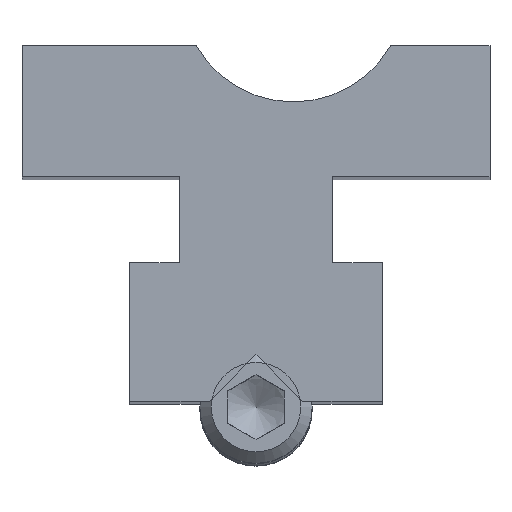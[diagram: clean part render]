
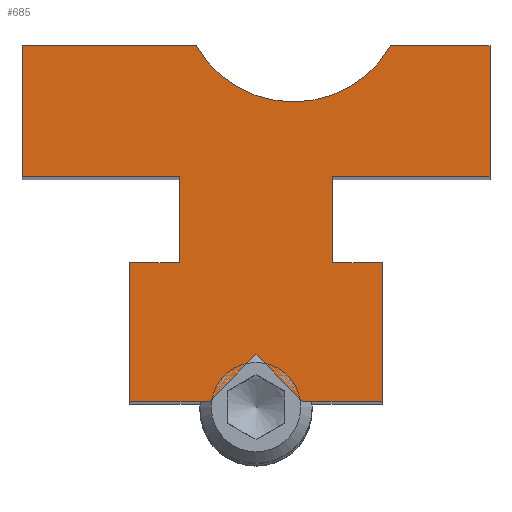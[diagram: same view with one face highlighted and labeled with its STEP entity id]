
A CAD part, top view. The second image highlights one B-rep face of the part: STEP entity #685.
In plain terms, the highlighted planar face has unit normal (0, 0, 1).
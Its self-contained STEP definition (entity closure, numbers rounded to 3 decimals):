
#257=CARTESIAN_POINT('',(4.1,-4.6,45.0));
#258=VERTEX_POINT('',#257);
#259=CARTESIAN_POINT('',(6.75,-4.6,45.0));
#260=VERTEX_POINT('',#259);
#261=CARTESIAN_POINT('',(4.1,-4.6,45.0));
#262=DIRECTION('',(1.0,0.0,0.0));
#263=VECTOR('',#262,2.65);
#264=LINE('',#261,#263);
#265=EDGE_CURVE('',#258,#260,#264,.T.);
#288=CARTESIAN_POINT('',(6.75,-12.0,45.0));
#289=VERTEX_POINT('',#288);
#290=CARTESIAN_POINT('',(6.75,-4.6,45.0));
#291=DIRECTION('',(0.0,-1.0,0.0));
#292=VECTOR('',#291,7.4);
#293=LINE('',#290,#292);
#294=EDGE_CURVE('',#260,#289,#293,.T.);
#312=CARTESIAN_POINT('',(2.5,-12.0,45.0));
#313=VERTEX_POINT('',#312);
#314=CARTESIAN_POINT('',(6.75,-12.0,45.0));
#315=DIRECTION('',(-1.0,0.0,0.0));
#316=VECTOR('',#315,4.25);
#317=LINE('',#314,#316);
#318=EDGE_CURVE('',#289,#313,#317,.T.);
#336=CARTESIAN_POINT('',(0.,-9.5,45.0));
#337=VERTEX_POINT('',#336);
#338=CARTESIAN_POINT('',(2.5,-12.0,45.0));
#339=DIRECTION('',(-0.707,0.707,0.0));
#340=VECTOR('',#339,3.536);
#341=LINE('',#338,#340);
#342=EDGE_CURVE('',#313,#337,#341,.T.);
#360=CARTESIAN_POINT('',(-2.5,-12.0,45.0));
#361=VERTEX_POINT('',#360);
#362=CARTESIAN_POINT('',(0.,-9.5,45.0));
#363=DIRECTION('',(-0.707,-0.707,0.0));
#364=VECTOR('',#363,3.536);
#365=LINE('',#362,#364);
#366=EDGE_CURVE('',#337,#361,#365,.T.);
#384=CARTESIAN_POINT('',(-6.75,-12.0,45.0));
#385=VERTEX_POINT('',#384);
#386=CARTESIAN_POINT('',(-2.5,-12.0,45.0));
#387=DIRECTION('',(-1.0,0.0,0.0));
#388=VECTOR('',#387,4.25);
#389=LINE('',#386,#388);
#390=EDGE_CURVE('',#361,#385,#389,.T.);
#408=CARTESIAN_POINT('',(-6.75,-4.6,45.0));
#409=VERTEX_POINT('',#408);
#410=CARTESIAN_POINT('',(-6.75,-12.0,45.0));
#411=DIRECTION('',(0.0,1.0,0.0));
#412=VECTOR('',#411,7.4);
#413=LINE('',#410,#412);
#414=EDGE_CURVE('',#385,#409,#413,.T.);
#432=CARTESIAN_POINT('',(-4.1,-4.6,45.0));
#433=VERTEX_POINT('',#432);
#434=CARTESIAN_POINT('',(-6.75,-4.6,45.0));
#435=DIRECTION('',(1.0,0.0,0.0));
#436=VECTOR('',#435,2.65);
#437=LINE('',#434,#436);
#438=EDGE_CURVE('',#409,#433,#437,.T.);
#456=CARTESIAN_POINT('',(-4.1,0.,45.0));
#457=VERTEX_POINT('',#456);
#458=CARTESIAN_POINT('',(-4.1,-4.6,45.0));
#459=DIRECTION('',(0.0,1.0,0.0));
#460=VECTOR('',#459,4.6);
#461=LINE('',#458,#460);
#462=EDGE_CURVE('',#433,#457,#461,.T.);
#480=CARTESIAN_POINT('',(-12.5,0.,45.0));
#481=VERTEX_POINT('',#480);
#482=CARTESIAN_POINT('',(-4.1,0.,45.0));
#483=DIRECTION('',(-1.0,0.0,0.0));
#484=VECTOR('',#483,8.4);
#485=LINE('',#482,#484);
#486=EDGE_CURVE('',#457,#481,#485,.T.);
#504=CARTESIAN_POINT('',(-12.5,7.,45.0));
#505=VERTEX_POINT('',#504);
#506=CARTESIAN_POINT('',(-12.5,0.,45.0));
#507=DIRECTION('',(0.0,1.0,0.0));
#508=VECTOR('',#507,7.0);
#509=LINE('',#506,#508);
#510=EDGE_CURVE('',#481,#505,#509,.T.);
#528=CARTESIAN_POINT('',(-3.196,7.,45.0));
#529=VERTEX_POINT('',#528);
#530=CARTESIAN_POINT('',(-12.5,7.,45.0));
#531=DIRECTION('',(1.0,0.0,0.0));
#532=VECTOR('',#531,9.304);
#533=LINE('',#530,#532);
#534=EDGE_CURVE('',#505,#529,#533,.T.);
#552=CARTESIAN_POINT('',(7.196,7.0,45.0));
#553=VERTEX_POINT('',#552);
#554=CARTESIAN_POINT('',(2.,10.,45.0));
#555=DIRECTION('',(0.0,0.0,1.0));
#556=DIRECTION('',(0.866,0.5,0.0));
#557=AXIS2_PLACEMENT_3D('',#554,#555,#556);
#558=CIRCLE('',#557,6.);
#559=EDGE_CURVE('',#529,#553,#558,.T.);
#577=CARTESIAN_POINT('',(12.5,7.0,45.0));
#578=VERTEX_POINT('',#577);
#579=CARTESIAN_POINT('',(7.196,7.0,45.0));
#580=DIRECTION('',(1.0,0.0,0.0));
#581=VECTOR('',#580,5.304);
#582=LINE('',#579,#581);
#583=EDGE_CURVE('',#553,#578,#582,.T.);
#601=CARTESIAN_POINT('',(12.5,0.,45.0));
#602=VERTEX_POINT('',#601);
#603=CARTESIAN_POINT('',(12.5,7.0,45.0));
#604=DIRECTION('',(0.0,-1.0,0.0));
#605=VECTOR('',#604,7.);
#606=LINE('',#603,#605);
#607=EDGE_CURVE('',#578,#602,#606,.T.);
#625=CARTESIAN_POINT('',(4.1,0.,45.0));
#626=VERTEX_POINT('',#625);
#627=CARTESIAN_POINT('',(12.5,0.,45.0));
#628=DIRECTION('',(-1.0,0.0,0.0));
#629=VECTOR('',#628,8.4);
#630=LINE('',#627,#629);
#631=EDGE_CURVE('',#602,#626,#630,.T.);
#649=CARTESIAN_POINT('',(4.1,0.,45.0));
#650=DIRECTION('',(0.0,-1.0,0.0));
#651=VECTOR('',#650,4.6);
#652=LINE('',#649,#651);
#653=EDGE_CURVE('',#626,#258,#652,.T.);
#661=CARTESIAN_POINT('',(0.042,-1.258,45.0));
#662=DIRECTION('',(0.0,0.0,1.0));
#663=DIRECTION('',(1.0,0.0,0.0));
#664=AXIS2_PLACEMENT_3D('',#661,#662,#663);
#665=PLANE('',#664);
#666=ORIENTED_EDGE('',*,*,#265,.F.);
#667=ORIENTED_EDGE('',*,*,#653,.F.);
#668=ORIENTED_EDGE('',*,*,#631,.F.);
#669=ORIENTED_EDGE('',*,*,#607,.F.);
#670=ORIENTED_EDGE('',*,*,#583,.F.);
#671=ORIENTED_EDGE('',*,*,#559,.F.);
#672=ORIENTED_EDGE('',*,*,#534,.F.);
#673=ORIENTED_EDGE('',*,*,#510,.F.);
#674=ORIENTED_EDGE('',*,*,#486,.F.);
#675=ORIENTED_EDGE('',*,*,#462,.F.);
#676=ORIENTED_EDGE('',*,*,#438,.F.);
#677=ORIENTED_EDGE('',*,*,#414,.F.);
#678=ORIENTED_EDGE('',*,*,#390,.F.);
#679=ORIENTED_EDGE('',*,*,#366,.F.);
#680=ORIENTED_EDGE('',*,*,#342,.F.);
#681=ORIENTED_EDGE('',*,*,#318,.F.);
#682=ORIENTED_EDGE('',*,*,#294,.F.);
#683=EDGE_LOOP('',(#666,#667,#668,#669,#670,#671,#672,#673,#674,#675,#676,#677,#678,#679,#680,#681,#682));
#684=FACE_OUTER_BOUND('',#683,.T.);
#685=ADVANCED_FACE('',(#684),#665,.T.);
